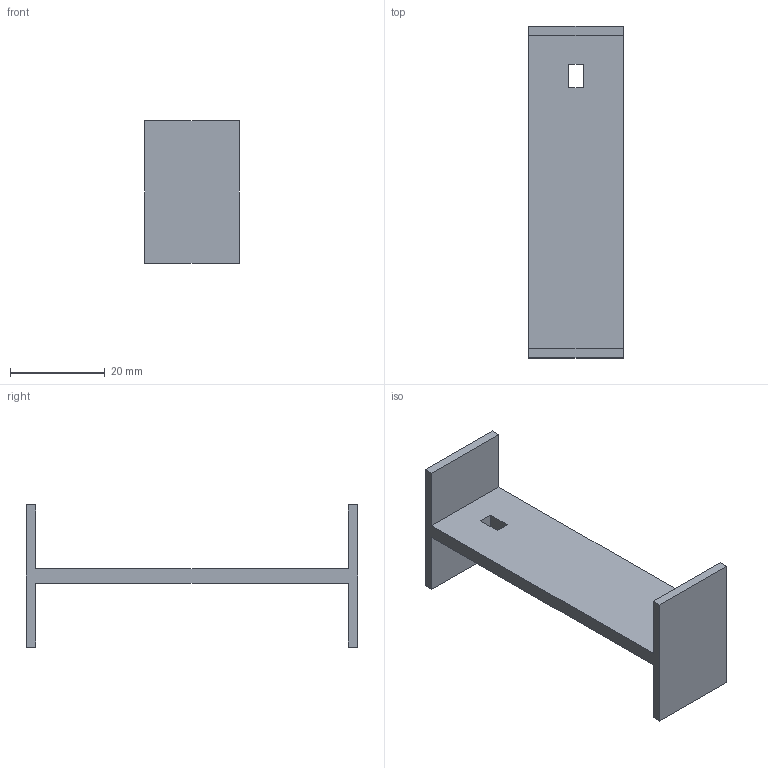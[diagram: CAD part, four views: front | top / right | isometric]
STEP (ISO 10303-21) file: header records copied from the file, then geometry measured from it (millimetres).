
FILE_DESCRIPTION(/* description */ (''),/* implementation_level */ '2;1');
FILE_NAME(/* name */ 'LED_switch_plate v2.step',/* time_stamp */ '2026-04-10T14:31:24+02:00',/* author */ (''),/* organization */ (''),/* preprocessor_version */ 'ST-DEVELOPER v20.1',/* originating_system */ 'Autodesk Translation Framework v14.24.0.0',/* authorisation */ '');
FILE_SCHEMA (('AUTOMOTIVE_DESIGN { 1 0 10303 214 3 1 1 }'));
Length unit declared in the file: millimetre
Products named in the file (1): (Niezapisany)
Bounding box: 20 x 70 x 30 mm (x, y, z)
Volume: 6315 mm3; surface area: 5734 mm2
Topology: 1 solids, 1 shells, 18 faces, 48 edges, 32 vertices
Faces by surface type: plane 18
Entity records: 589 total; most frequent: CARTESIAN_POINT 99, ORIENTED_EDGE 96, DIRECTION 86, LINE 48, VECTOR 48, EDGE_CURVE 48, VERTEX_POINT 32, EDGE_LOOP 20
